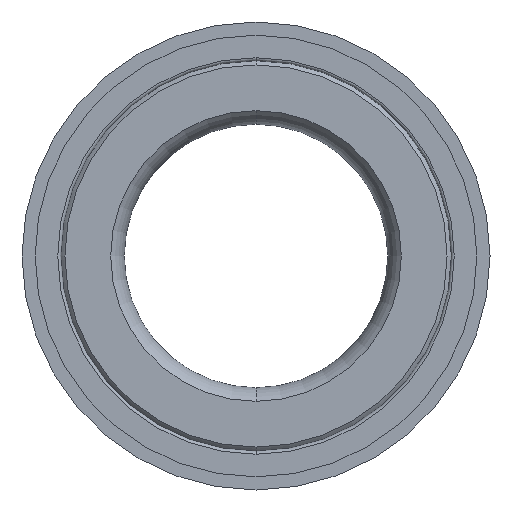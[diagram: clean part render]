
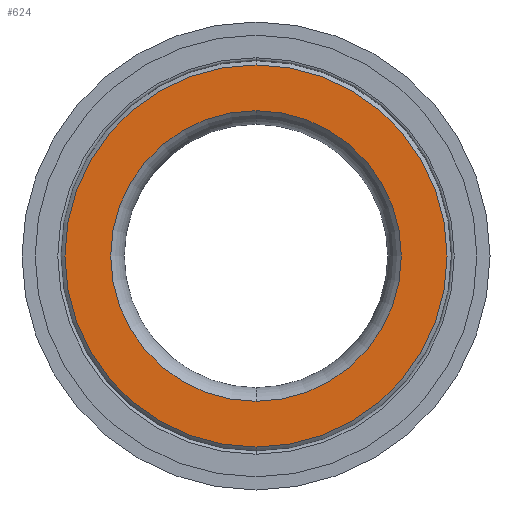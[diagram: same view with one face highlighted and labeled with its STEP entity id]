
A CAD part, left-side view. The second image highlights one B-rep face of the part: STEP entity #624.
In plain terms, the highlighted planar face has unit normal (-1, 0, 0).
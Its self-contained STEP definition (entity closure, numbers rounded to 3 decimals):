
#151=CARTESIAN_POINT('',(-1.95,0.,0.));
#152=DIRECTION('',(1.,0.,0.));
#153=DIRECTION('',(0.,0.,-1.));
#154=AXIS2_PLACEMENT_3D('',#151,#152,#153);
#161=CARTESIAN_POINT('',(-1.95,0.,0.));
#162=DIRECTION('',(1.,0.,0.));
#163=DIRECTION('',(0.,0.,1.));
#164=AXIS2_PLACEMENT_3D('',#161,#162,#163);
#176=CARTESIAN_POINT('',(-1.95,0.,0.));
#177=DIRECTION('',(1.,0.,0.));
#178=DIRECTION('',(0.,0.,-1.));
#179=AXIS2_PLACEMENT_3D('',#176,#177,#178);
#196=CARTESIAN_POINT('',(-1.95,0.,0.));
#197=DIRECTION('',(1.,0.,0.));
#198=DIRECTION('',(0.,0.,1.));
#199=AXIS2_PLACEMENT_3D('',#196,#197,#198);
#301=CARTESIAN_POINT('',(-1.95,0.,-9.936));
#302=CARTESIAN_POINT('',(-1.95,0.,9.936));
#303=VERTEX_POINT('',#301);
#304=VERTEX_POINT('',#302);
#305=CARTESIAN_POINT('',(-1.95,0.,-13.064));
#306=CARTESIAN_POINT('',(-1.95,0.,13.064));
#307=VERTEX_POINT('',#305);
#308=VERTEX_POINT('',#306);
#609=CARTESIAN_POINT('',(-1.95,0.,0.));
#610=DIRECTION('',(1.,0.,0.));
#611=DIRECTION('',(0.,-1.,0.));
#612=AXIS2_PLACEMENT_3D('',#609,#610,#611);
#613=PLANE('',#612);
#614=ORIENTED_EDGE('',*,*,#575,.T.);
#615=ORIENTED_EDGE('',*,*,#596,.T.);
#616=EDGE_LOOP('',(#614,#615));
#617=FACE_OUTER_BOUND('',#616,.F.);
#619=ORIENTED_EDGE('',*,*,#618,.F.);
#621=ORIENTED_EDGE('',*,*,#620,.F.);
#622=EDGE_LOOP('',(#619,#621));
#623=FACE_BOUND('',#622,.F.);
#155=CIRCLE('',#154,13.064);
#165=CIRCLE('',#164,13.064);
#180=CIRCLE('',#179,9.936);
#200=CIRCLE('',#199,9.936);
#575=EDGE_CURVE('',#307,#308,#155,.T.);
#596=EDGE_CURVE('',#308,#307,#165,.T.);
#618=EDGE_CURVE('',#303,#304,#180,.T.);
#620=EDGE_CURVE('',#304,#303,#200,.T.);
#624=ADVANCED_FACE('',(#617,#623),#613,.F.);
